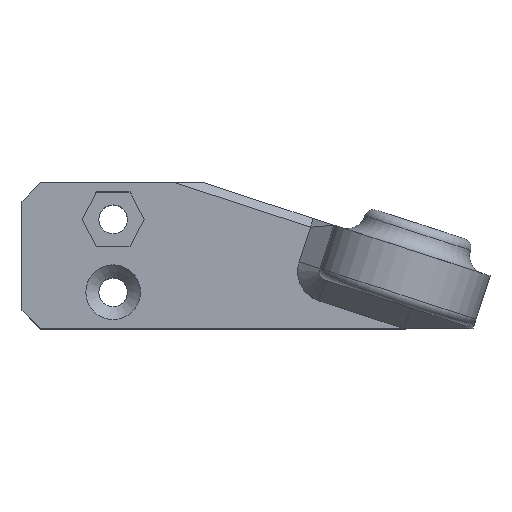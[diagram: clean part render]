
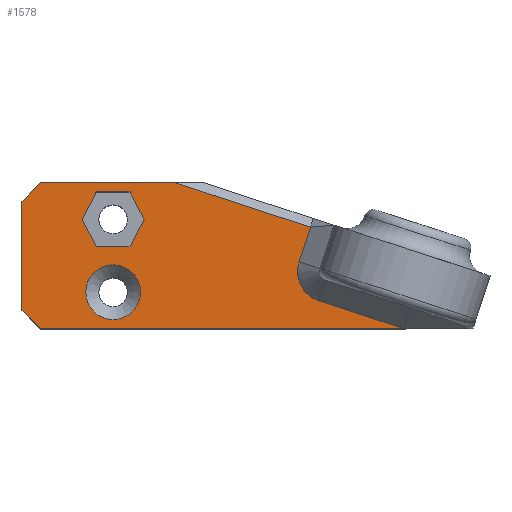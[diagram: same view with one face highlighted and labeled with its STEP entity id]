
A CAD part, top view. The second image highlights one B-rep face of the part: STEP entity #1578.
In plain terms, the highlighted planar face has unit normal (0, 0, 1).
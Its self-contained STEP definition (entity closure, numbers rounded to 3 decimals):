
#45=FACE_BOUND('',#253,.T.);
#46=FACE_BOUND('',#254,.T.);
#96=CIRCLE('',#1674,3.4);
#98=CIRCLE('',#1681,3.);
#155=FACE_OUTER_BOUND('',#252,.T.);
#252=EDGE_LOOP('',(#1100,#1101,#1102,#1103,#1104,#1105,#1106,#1107,#1108,
#1109));
#253=EDGE_LOOP('',(#1110,#1111,#1112,#1113,#1114,#1115));
#254=EDGE_LOOP('',(#1116));
#392=LINE('',#2281,#553);
#394=LINE('',#2290,#555);
#403=LINE('',#2319,#564);
#404=LINE('',#2321,#565);
#405=LINE('',#2323,#566);
#406=LINE('',#2325,#567);
#407=LINE('',#2327,#568);
#408=LINE('',#2329,#569);
#409=LINE('',#2330,#570);
#410=LINE('',#2333,#571);
#411=LINE('',#2335,#572);
#412=LINE('',#2337,#573);
#413=LINE('',#2339,#574);
#414=LINE('',#2341,#575);
#415=LINE('',#2342,#576);
#553=VECTOR('',#1824,10.);
#555=VECTOR('',#1834,10.);
#564=VECTOR('',#1853,10.);
#565=VECTOR('',#1854,10.);
#566=VECTOR('',#1855,10.);
#567=VECTOR('',#1856,10.);
#568=VECTOR('',#1857,10.);
#569=VECTOR('',#1858,10.);
#570=VECTOR('',#1859,10.);
#571=VECTOR('',#1860,10.);
#572=VECTOR('',#1861,10.);
#573=VECTOR('',#1862,10.);
#574=VECTOR('',#1863,10.);
#575=VECTOR('',#1864,10.);
#576=VECTOR('',#1865,10.);
#711=VERTEX_POINT('',#2274);
#714=VERTEX_POINT('',#2279);
#716=VERTEX_POINT('',#2285);
#717=VERTEX_POINT('',#2289);
#725=VERTEX_POINT('',#2318);
#726=VERTEX_POINT('',#2320);
#727=VERTEX_POINT('',#2322);
#728=VERTEX_POINT('',#2324);
#729=VERTEX_POINT('',#2326);
#730=VERTEX_POINT('',#2328);
#731=VERTEX_POINT('',#2331);
#732=VERTEX_POINT('',#2332);
#733=VERTEX_POINT('',#2334);
#734=VERTEX_POINT('',#2336);
#735=VERTEX_POINT('',#2338);
#736=VERTEX_POINT('',#2340);
#737=VERTEX_POINT('',#2343);
#863=EDGE_CURVE('',#714,#711,#392,.T.);
#866=EDGE_CURVE('',#716,#714,#96,.T.);
#867=EDGE_CURVE('',#717,#716,#394,.T.);
#879=EDGE_CURVE('',#725,#717,#403,.T.);
#880=EDGE_CURVE('',#725,#726,#404,.T.);
#881=EDGE_CURVE('',#727,#726,#405,.T.);
#882=EDGE_CURVE('',#727,#728,#406,.T.);
#883=EDGE_CURVE('',#729,#728,#407,.T.);
#884=EDGE_CURVE('',#729,#730,#408,.T.);
#885=EDGE_CURVE('',#730,#711,#409,.T.);
#886=EDGE_CURVE('',#731,#732,#410,.T.);
#887=EDGE_CURVE('',#732,#733,#411,.T.);
#888=EDGE_CURVE('',#733,#734,#412,.T.);
#889=EDGE_CURVE('',#734,#735,#413,.T.);
#890=EDGE_CURVE('',#735,#736,#414,.T.);
#891=EDGE_CURVE('',#736,#731,#415,.T.);
#892=EDGE_CURVE('',#737,#737,#98,.T.);
#1100=ORIENTED_EDGE('',*,*,#863,.F.);
#1101=ORIENTED_EDGE('',*,*,#866,.F.);
#1102=ORIENTED_EDGE('',*,*,#867,.F.);
#1103=ORIENTED_EDGE('',*,*,#879,.F.);
#1104=ORIENTED_EDGE('',*,*,#880,.T.);
#1105=ORIENTED_EDGE('',*,*,#881,.F.);
#1106=ORIENTED_EDGE('',*,*,#882,.T.);
#1107=ORIENTED_EDGE('',*,*,#883,.F.);
#1108=ORIENTED_EDGE('',*,*,#884,.T.);
#1109=ORIENTED_EDGE('',*,*,#885,.T.);
#1110=ORIENTED_EDGE('',*,*,#886,.T.);
#1111=ORIENTED_EDGE('',*,*,#887,.T.);
#1112=ORIENTED_EDGE('',*,*,#888,.T.);
#1113=ORIENTED_EDGE('',*,*,#889,.T.);
#1114=ORIENTED_EDGE('',*,*,#890,.T.);
#1115=ORIENTED_EDGE('',*,*,#891,.T.);
#1116=ORIENTED_EDGE('',*,*,#892,.T.);
#1512=PLANE('',#1680);
#1578=ADVANCED_FACE('',(#155,#45,#46),#1512,.T.);
#1674=AXIS2_PLACEMENT_3D('',#2287,#1830,#1831);
#1680=AXIS2_PLACEMENT_3D('',#2317,#1851,#1852);
#1681=AXIS2_PLACEMENT_3D('',#2344,#1866,#1867);
#1824=DIRECTION('',(0.951,-0.309,0.));
#1830=DIRECTION('center_axis',(0.,0.,1.));
#1831=DIRECTION('ref_axis',(-0.891,-0.454,0.));
#1834=DIRECTION('',(-0.309,-0.951,0.));
#1851=DIRECTION('center_axis',(0.,0.,1.));
#1852=DIRECTION('ref_axis',(1.,0.,0.));
#1853=DIRECTION('',(0.95,-0.311,0.));
#1854=DIRECTION('',(-1.,0.,0.));
#1855=DIRECTION('',(0.707,0.707,0.));
#1856=DIRECTION('',(0.,-1.,0.));
#1857=DIRECTION('',(-0.707,0.707,0.));
#1858=DIRECTION('',(1.,0.,0.));
#1859=DIRECTION('',(1.,0.008,0.));
#1860=DIRECTION('',(-0.459,-0.888,0.));
#1861=DIRECTION('',(-1.,0.,0.));
#1862=DIRECTION('',(-0.459,0.888,0.));
#1863=DIRECTION('',(0.459,0.888,0.));
#1864=DIRECTION('',(1.,0.,0.));
#1865=DIRECTION('',(0.459,-0.888,0.));
#1866=DIRECTION('center_axis',(0.,0.,-1.));
#1867=DIRECTION('ref_axis',(1.,0.,0.));
#2274=CARTESIAN_POINT('',(1.897,0.014,14.));
#2279=CARTESIAN_POINT('',(-7.423,3.043,14.));
#2281=CARTESIAN_POINT('',(-8.143,3.277,14.));
#2285=CARTESIAN_POINT('',(-9.606,7.327,14.));
#2287=CARTESIAN_POINT('Origin',(-6.372,6.276,14.));
#2289=CARTESIAN_POINT('',(-8.368,11.137,14.));
#2290=CARTESIAN_POINT('',(-9.273,8.35,14.));
#2317=CARTESIAN_POINT('Origin',(-7.123,5.629,14.));
#2318=CARTESIAN_POINT('',(-23.212,16.,14.));
#2319=CARTESIAN_POINT('',(-12.963,12.642,14.));
#2320=CARTESIAN_POINT('',(-38.,16.,14.));
#2321=CARTESIAN_POINT('',(-20.,16.,14.));
#2322=CARTESIAN_POINT('',(-40.,14.,14.));
#2323=CARTESIAN_POINT('',(-33.374,20.626,14.));
#2324=CARTESIAN_POINT('',(-40.,2.,14.));
#2325=CARTESIAN_POINT('',(-40.,16.,14.));
#2326=CARTESIAN_POINT('',(-38.,0.,14.));
#2327=CARTESIAN_POINT('',(-32.188,-5.812,14.));
#2328=CARTESIAN_POINT('',(0.,0.,14.));
#2329=CARTESIAN_POINT('',(-40.,0.,14.));
#2330=CARTESIAN_POINT('',(0.,0.,14.));
#2331=CARTESIAN_POINT('',(-26.6,12.,14.));
#2332=CARTESIAN_POINT('',(-28.15,9.,14.));
#2333=CARTESIAN_POINT('',(-25.847,13.457,14.));
#2334=CARTESIAN_POINT('',(-31.85,9.,14.));
#2335=CARTESIAN_POINT('',(-17.637,9.,14.));
#2336=CARTESIAN_POINT('',(-33.4,12.,14.));
#2337=CARTESIAN_POINT('',(-28.558,2.628,14.));
#2338=CARTESIAN_POINT('',(-31.85,15.,14.));
#2339=CARTESIAN_POINT('',(-31.931,14.844,14.));
#2340=CARTESIAN_POINT('',(-28.15,15.,14.));
#2341=CARTESIAN_POINT('',(-19.487,15.,14.));
#2342=CARTESIAN_POINT('',(-24.024,7.014,14.));
#2343=CARTESIAN_POINT('',(-27.,4.,14.));
#2344=CARTESIAN_POINT('Origin',(-30.,4.,14.));
